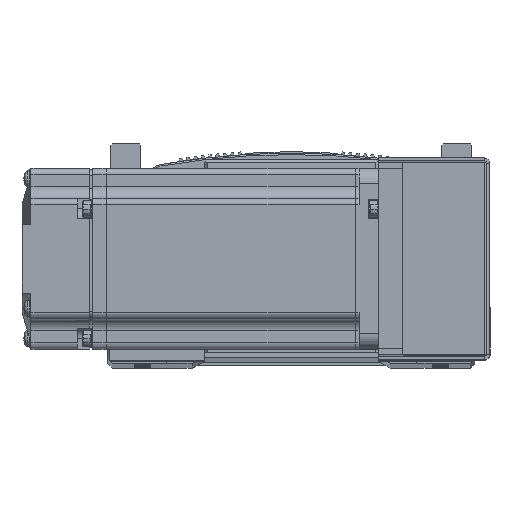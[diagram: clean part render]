
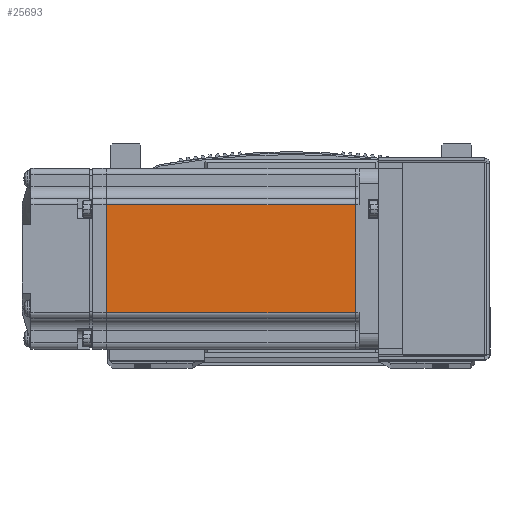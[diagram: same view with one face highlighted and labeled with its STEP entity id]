
A CAD part, top view. The second image highlights one B-rep face of the part: STEP entity #25693.
In plain terms, the highlighted planar face has unit normal (0, 0, 1) as drawn and (0, 1, 0) by its records, which use the part's own axes.
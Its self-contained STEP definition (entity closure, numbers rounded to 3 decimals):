
#1019 = ORIENTED_EDGE ( 'NONE', *, *, #51286, .T. ) ;
#1088 = ORIENTED_EDGE ( 'NONE', *, *, #51248, .T. ) ;
#1098 = ORIENTED_EDGE ( 'NONE', *, *, #51307, .F. ) ;
#1108 = ORIENTED_EDGE ( 'NONE', *, *, #51322, .T. ) ;
#10423 = VERTEX_POINT ( 'NONE', #85852 ) ;
#10554 = VERTEX_POINT ( 'NONE', #85928 ) ;
#10603 = VERTEX_POINT ( 'NONE', #85904 ) ;
#10666 = VERTEX_POINT ( 'NONE', #85901 ) ;
#25693 = ADVANCED_FACE ( 'NONE', ( #43359 ), #64358, .T. ) ;
#33889 = LINE ( 'NONE', #45559, #33890 ) ;
#33890 = VECTOR ( 'NONE', #45564, 1000. ) ;
#33978 = LINE ( 'NONE', #45796, #33979 ) ;
#33979 = VECTOR ( 'NONE', #45833, 1000. ) ;
#33982 = VECTOR ( 'NONE', #45915, 1000. ) ;
#33988 = LINE ( 'NONE', #45909, #33982 ) ;
#34026 = VECTOR ( 'NONE', #45984, 1000. ) ;
#34033 = LINE ( 'NONE', #45937, #34026 ) ;
#43359 = FACE_OUTER_BOUND ( 'NONE', #75115, .T. ) ;
#45559 = CARTESIAN_POINT ( 'NONE',  ( -6.5, 30., 18. ) ) ;
#45564 = DIRECTION ( 'NONE',  ( 1., 0., 0. ) ) ;
#45796 = CARTESIAN_POINT ( 'NONE',  ( -90.45, 30., 0. ) ) ;
#45833 = DIRECTION ( 'NONE',  ( 0., 0., 1. ) ) ;
#45909 = CARTESIAN_POINT ( 'NONE',  ( -7.75, 30., 0. ) ) ;
#45915 = DIRECTION ( 'NONE',  ( 0., 0., 1. ) ) ;
#45937 = CARTESIAN_POINT ( 'NONE',  ( -6.5, 30., -18. ) ) ;
#45984 = DIRECTION ( 'NONE',  ( -1., 0., 0. ) ) ;
#47689 = AXIS2_PLACEMENT_3D ( 'NONE', #64349, #64339, #64270 ) ;
#51248 = EDGE_CURVE ( 'NONE', #10554, #10423, #33889, .T. ) ;
#51286 = EDGE_CURVE ( 'NONE', #10666, #10554, #33978, .T. ) ;
#51307 = EDGE_CURVE ( 'NONE', #10603, #10423, #33988, .T. ) ;
#51322 = EDGE_CURVE ( 'NONE', #10603, #10666, #34033, .T. ) ;
#64270 = DIRECTION ( 'NONE',  ( 0., 0., 1. ) ) ;
#64339 = DIRECTION ( 'NONE',  ( 0., 1., 0. ) ) ;
#64349 = CARTESIAN_POINT ( 'NONE',  ( -6.5, 30., 25. ) ) ;
#64358 = PLANE ( 'NONE',  #47689 ) ;
#75115 = EDGE_LOOP ( 'NONE', ( #1098, #1108, #1019, #1088 ) ) ;
#85852 = CARTESIAN_POINT ( 'NONE',  ( -7.75, 30., 18. ) ) ;
#85901 = CARTESIAN_POINT ( 'NONE',  ( -90.45, 30., -18. ) ) ;
#85904 = CARTESIAN_POINT ( 'NONE',  ( -7.75, 30., -18. ) ) ;
#85928 = CARTESIAN_POINT ( 'NONE',  ( -90.45, 30., 18. ) ) ;
